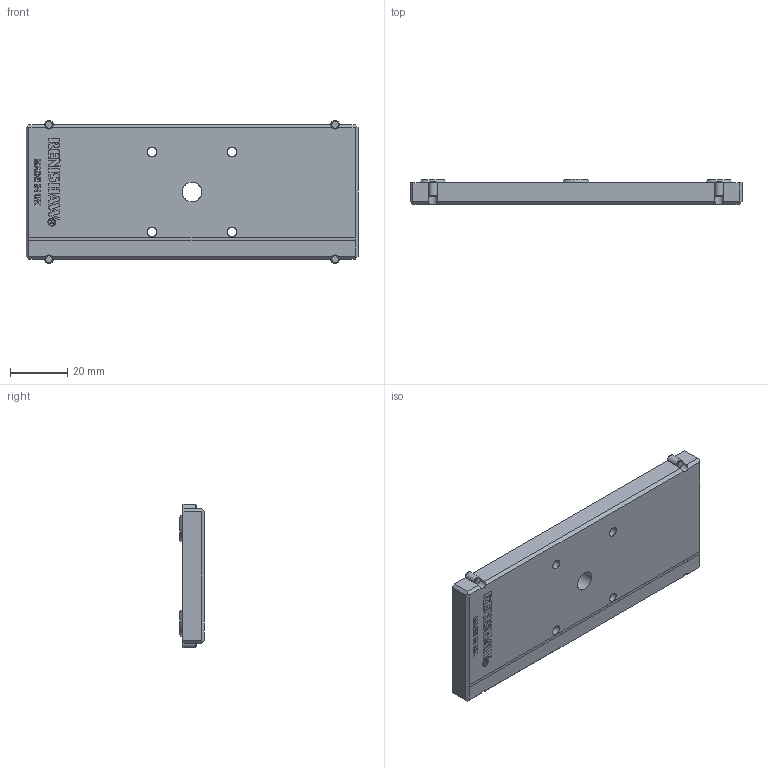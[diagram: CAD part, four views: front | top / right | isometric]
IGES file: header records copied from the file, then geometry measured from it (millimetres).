
Global section: file name: E:\Lightweight models\A-8003-0442  Flatness Kit\LA-8003-0257  Base (100)\LA-8003-0257-A.igs; native system: NX V7.5; preprocessor: SIEMENS PLM Software NX 7.5; date: 20150331.112831; units: millimetre
Bounding box: 116 x 8.7 x 50 mm (x, y, z)
Surface area: 16141.2 mm2 (no closed solid volume)
Topology: 0 solids, 0 shells, 359 faces, 2225 edges, 2200 vertices
Faces by surface type: bspline 359
